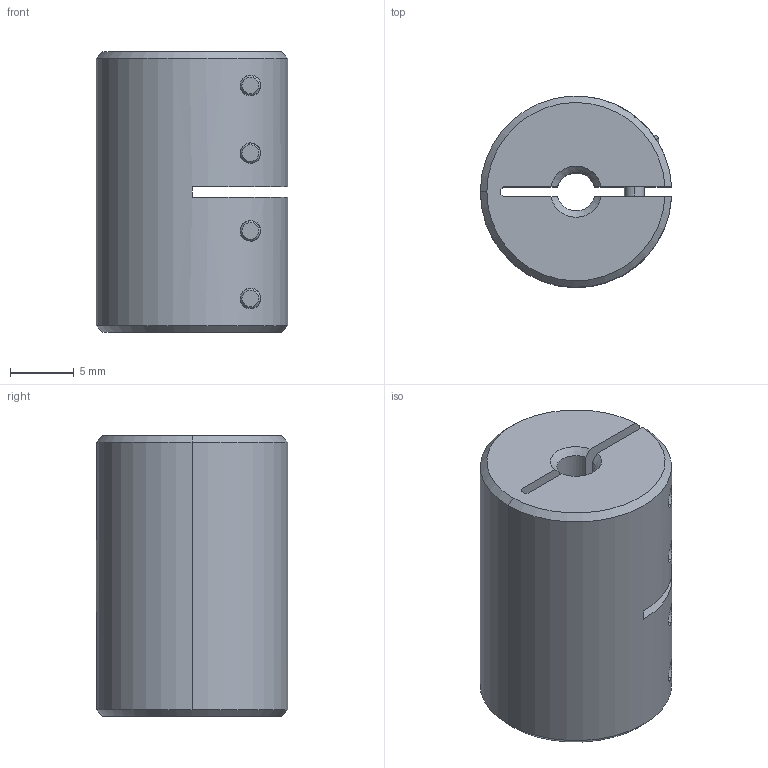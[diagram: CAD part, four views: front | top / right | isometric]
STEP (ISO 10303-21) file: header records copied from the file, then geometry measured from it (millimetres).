
FILE_DESCRIPTION((''),'2;1');
FILE_NAME('MCLX-3-3-X','2016-09-07T',('SYSTEM'),(''),'PRO/ENGINEER BY PARAMETRIC TECHNOLOGY CORPORATION, 2015110','PRO/ENGINEER BY PARAMETRIC TECHNOLOGY CORPORATION, 2015110','');
FILE_SCHEMA(('AUTOMOTIVE_DESIGN { 1 0 10303 214 1 1 1 1 }'));
Length unit declared in the file: inch
Products named in the file (1): MCLX-3-3-X
Bounding box: 14.99 x 15 x 22 mm (x, y, z)
Volume: 3321 mm3; surface area: 2575.1 mm2
Topology: 1 solids, 1 shells, 128 faces, 312 edges, 204 vertices
Faces by surface type: plane 61, cylinder 44, cone 23
Entity records: 5027 total; most frequent: CARTESIAN_POINT 991, DIRECTION 646, ORIENTED_EDGE 624, EDGE_CURVE 312, AXIS2_PLACEMENT_3D 238, VERTEX_POINT 204, VECTOR 170, LINE 170
